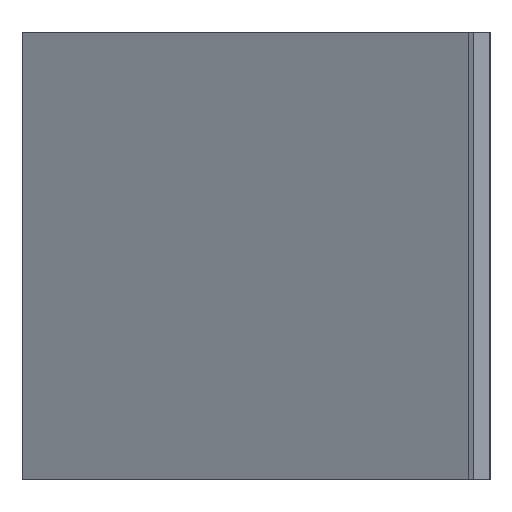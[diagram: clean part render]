
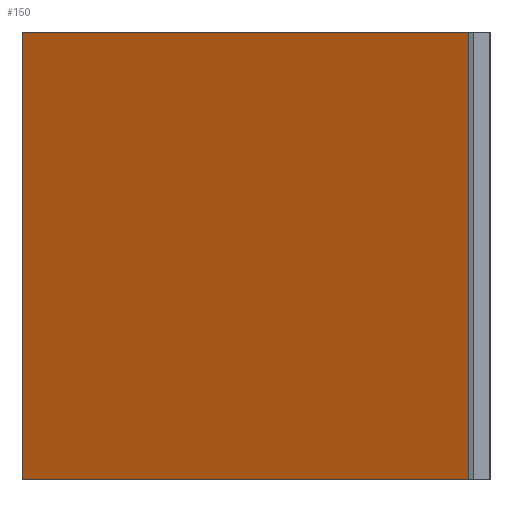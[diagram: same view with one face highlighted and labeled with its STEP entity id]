
A CAD part, left-side view. The second image highlights one B-rep face of the part: STEP entity #150.
In plain terms, the highlighted planar face has unit normal (0.891, -0.454, 0).
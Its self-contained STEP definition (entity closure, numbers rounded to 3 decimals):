
#98=CARTESIAN_POINT('Vertex',(20.,0.,0.)) ;
#101=CARTESIAN_POINT('Line Origine',(20.,0.,53.)) ;
#105=CARTESIAN_POINT('Vertex',(20.,0.,106.)) ;
#120=CARTESIAN_POINT('Axis2P3D Location',(20.,0.,0.)) ;
#125=CARTESIAN_POINT('Line Origine',(47.,53.,0.)) ;
#129=CARTESIAN_POINT('Vertex',(74.,106.,0.)) ;
#132=CARTESIAN_POINT('Line Origine',(74.,106.,53.)) ;
#136=CARTESIAN_POINT('Vertex',(74.,106.,106.)) ;
#139=CARTESIAN_POINT('Line Origine',(47.,53.,106.)) ;
#102=DIRECTION('Vector Direction',(0.,0.,1.)) ;
#121=DIRECTION('Axis2P3D Direction',(0.891,-0.454,0.)) ;
#122=DIRECTION('Axis2P3D XDirection',(0.454,0.891,0.)) ;
#126=DIRECTION('Vector Direction',(0.454,0.891,0.)) ;
#133=DIRECTION('Vector Direction',(0.,0.,1.)) ;
#140=DIRECTION('Vector Direction',(0.454,0.891,0.)) ;
#123=AXIS2_PLACEMENT_3D('Plane Axis2P3D',#120,#121,#122) ;
#145=ORIENTED_EDGE('',*,*,#107,.F.) ;
#146=ORIENTED_EDGE('',*,*,#131,.T.) ;
#147=ORIENTED_EDGE('',*,*,#138,.T.) ;
#148=ORIENTED_EDGE('',*,*,#143,.F.) ;
#103=VECTOR('Line Direction',#102,1.) ;
#127=VECTOR('Line Direction',#126,1.) ;
#134=VECTOR('Line Direction',#133,1.) ;
#141=VECTOR('Line Direction',#140,1.) ;
#150=ADVANCED_FACE('Extrude.1',(#149),#124,.T.) ;
#107=EDGE_CURVE('',#99,#106,#104,.T.) ;
#131=EDGE_CURVE('',#99,#130,#128,.T.) ;
#138=EDGE_CURVE('',#130,#137,#135,.T.) ;
#143=EDGE_CURVE('',#106,#137,#142,.T.) ;
#144=EDGE_LOOP('',(#145,#146,#147,#148)) ;
#149=FACE_OUTER_BOUND('',#144,.T.) ;
#104=LINE('Line',#101,#103) ;
#128=LINE('Line',#125,#127) ;
#135=LINE('Line',#132,#134) ;
#142=LINE('Line',#139,#141) ;
#124=PLANE('',#123) ;
#99=VERTEX_POINT('',#98) ;
#106=VERTEX_POINT('',#105) ;
#130=VERTEX_POINT('',#129) ;
#137=VERTEX_POINT('',#136) ;
